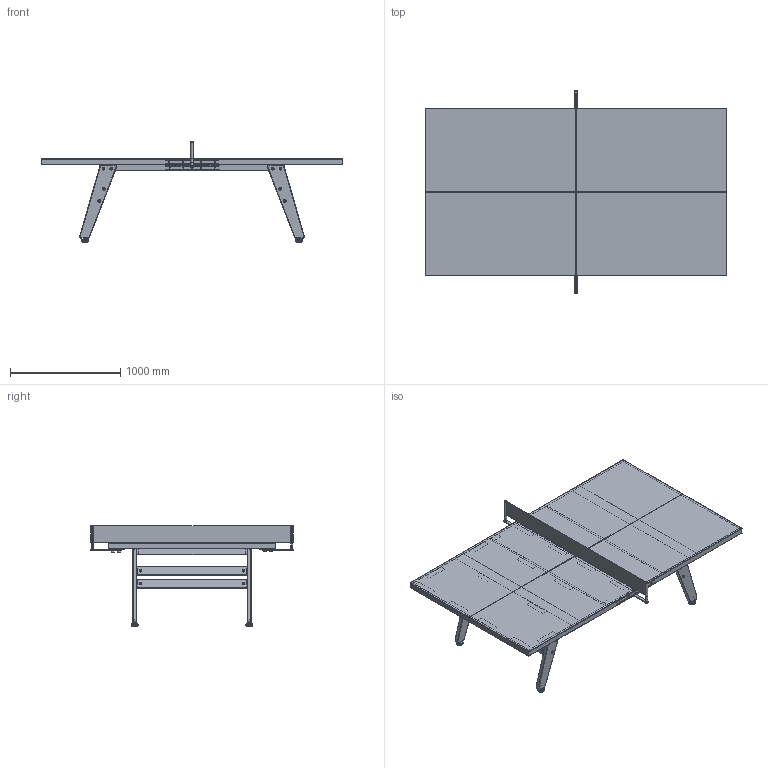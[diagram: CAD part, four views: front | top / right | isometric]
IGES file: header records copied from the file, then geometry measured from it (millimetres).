
Start section: START RECORD GO HERE.
Global section: file name: RS_PING_PONG.igs; native system: DASSAULT SYSTEMES CATIA V5 R21 - www.3ds.com; preprocessor: CATIA Version 5 Release 21 ; author: imac; organization: IMAC79B9; date: 20170427.175324; units: millimetre
Bounding box: 2740 x 1841.8 x 914 mm (x, y, z)
Surface area: 18409859.1 mm2 (no closed solid volume)
Topology: 0 solids, 0 shells, 4334 faces, 21236 edges, 21048 vertices
Faces by surface type: plane 2450, revolution 1884
